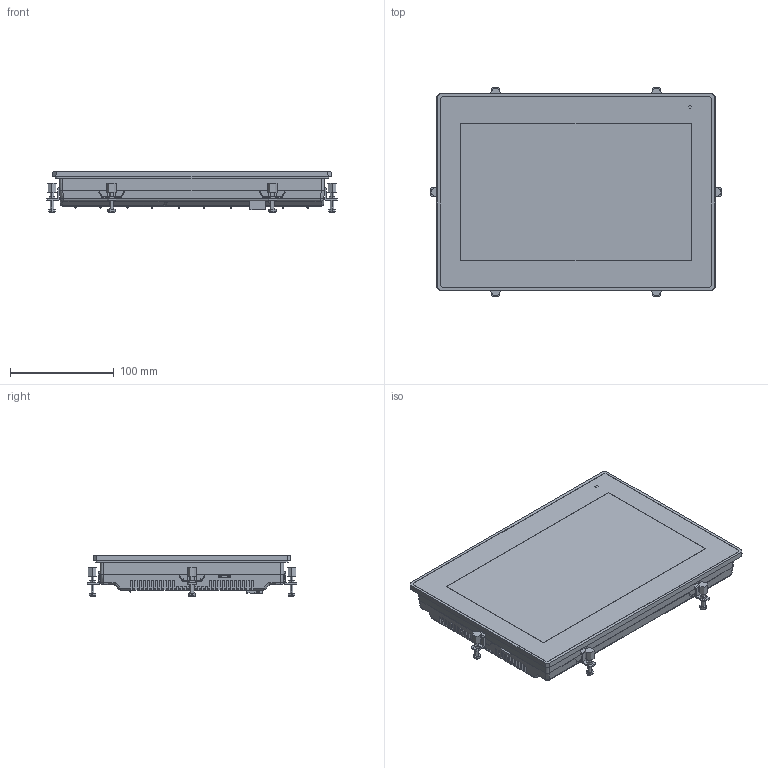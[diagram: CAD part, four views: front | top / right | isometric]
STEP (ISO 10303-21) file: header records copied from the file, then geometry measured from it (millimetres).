
FILE_DESCRIPTION (( 'STEP AP214' ), '1' );
FILE_NAME ('WP4101A(AP).STEP', '2024-05-24T16:13:00', ( '' ), ( '' ), 'SwSTEP 2.0', 'SolidWorks 2019', '' );
FILE_SCHEMA (( 'AUTOMOTIVE_DESIGN' ));
Length unit declared in the file: millimetre
Products named in the file (1): WP4101A(AP)
Bounding box: 280.01 x 202.01 x 39 mm (x, y, z)
Topology: 8 solids, 15 shells, 2425 faces, 7007 edges, 4677 vertices
Faces by surface type: plane 1684, cylinder 625, bspline 53, cone 26, sphere 21, torus 16
Full cylindrical faces by diameter (mm): 0.2 x2
Entity records: 81881 total; most frequent: CARTESIAN_POINT 19455, ORIENTED_EDGE 13990, DIRECTION 11891, EDGE_CURVE 6995, VERTEX_POINT 4675, LINE 4625, VECTOR 4625, AXIS2_PLACEMENT_3D 3633
